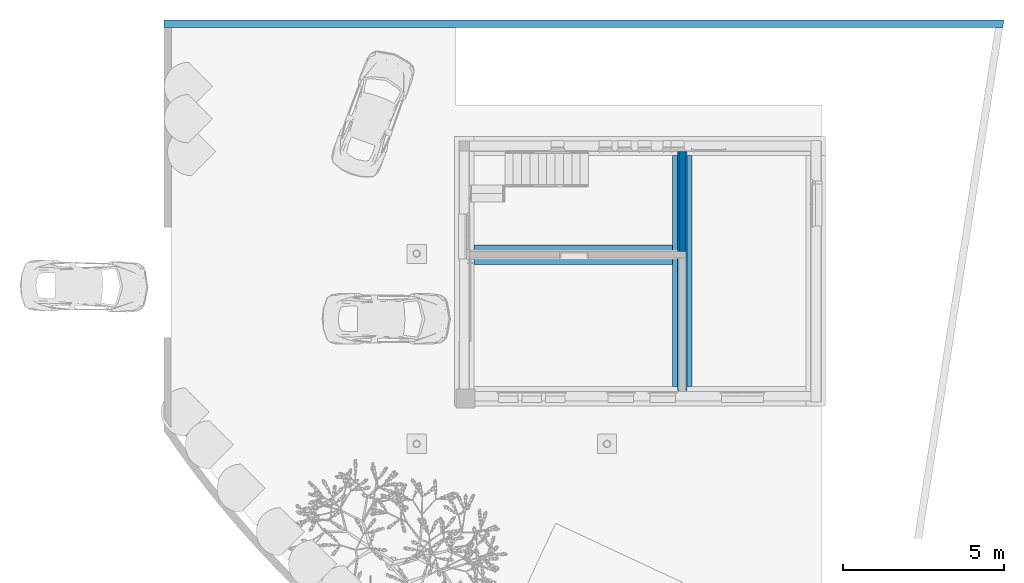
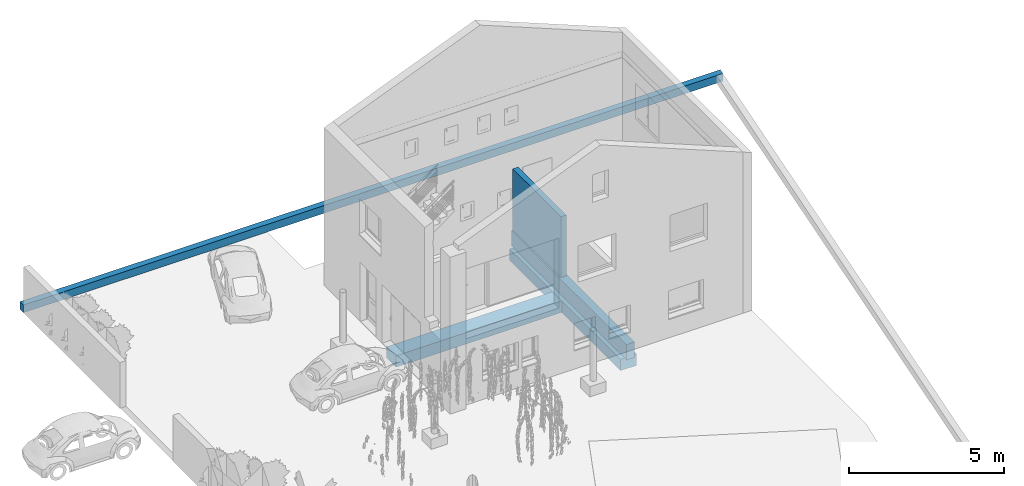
# One storey, part 4 of 20: 5 walls.
"""IFC2X3 building model written with IfcOpenShell, lengths in metres."""

from ifc_helpers import new_model, entity, si_unit, converted_unit, derived_unit, direction, frame, frame_2d, origin, place, context, subcontext, project, spatial, polyline, rectangle, outline, extrude, material, layer, layer_set, layer_usage, type_object, element, save


model = new_model("IFC2X3")

# Units and contexts
model_context = context("Model", 3, precision=1e-05, world=origin(), true_north=direction((6.12303176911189e-17, 1.0)))
body_context = subcontext(model_context, "Body", "Model", "MODEL_VIEW")
ifc_project = project(units=[si_unit("LENGTHUNIT", "METRE"), si_unit("AREAUNIT", "SQUARE_METRE"), si_unit("VOLUMEUNIT", "CUBIC_METRE"), converted_unit("PLANEANGLEUNIT", "DEGREE", entity("IfcRatioMeasure", 0.0174532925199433), si_unit("PLANEANGLEUNIT", "RADIAN"), dimensions=[0, 0, 0, 0, 0, 0, 0]), si_unit("MASSUNIT", "GRAM", prefix="KILO"), derived_unit("MASSDENSITYUNIT", [(si_unit("MASSUNIT", "GRAM", prefix="KILO"), 1), (si_unit("LENGTHUNIT", "METRE"), -3)]), derived_unit("MOMENTOFINERTIAUNIT", [(si_unit("LENGTHUNIT", "METRE"), 4)]), si_unit("TIMEUNIT", "SECOND"), si_unit("FREQUENCYUNIT", "HERTZ"), si_unit("THERMODYNAMICTEMPERATUREUNIT", "DEGREE_CELSIUS"), derived_unit("THERMALTRANSMITTANCEUNIT", [(si_unit("MASSUNIT", "GRAM", prefix="KILO"), 1), (si_unit("THERMODYNAMICTEMPERATUREUNIT", "KELVIN"), -1), (si_unit("TIMEUNIT", "SECOND"), -3)]), derived_unit("VOLUMETRICFLOWRATEUNIT", [(si_unit("LENGTHUNIT", "METRE"), 3), (si_unit("TIMEUNIT", "SECOND"), -1)]), si_unit("ELECTRICCURRENTUNIT", "AMPERE"), si_unit("ELECTRICVOLTAGEUNIT", "VOLT"), si_unit("POWERUNIT", "WATT"), si_unit("FORCEUNIT", "NEWTON", prefix="KILO"), si_unit("ILLUMINANCEUNIT", "LUX"), si_unit("LUMINOUSFLUXUNIT", "LUMEN"), si_unit("LUMINOUSINTENSITYUNIT", "CANDELA"), derived_unit("USERDEFINED", [(si_unit("MASSUNIT", "GRAM", prefix="KILO"), -1), (si_unit("LENGTHUNIT", "METRE"), -2), (si_unit("TIMEUNIT", "SECOND"), 3), (si_unit("LUMINOUSFLUXUNIT", "LUMEN"), 1)]), derived_unit("LINEARVELOCITYUNIT", [(si_unit("LENGTHUNIT", "METRE"), 1), (si_unit("TIMEUNIT", "SECOND"), -1)]), si_unit("PRESSUREUNIT", "PASCAL"), derived_unit("USERDEFINED", [(si_unit("LENGTHUNIT", "METRE"), -2), (si_unit("MASSUNIT", "GRAM", prefix="KILO"), 1), (si_unit("TIMEUNIT", "SECOND"), -2)]), derived_unit("LINEARFORCEUNIT", [(si_unit("MASSUNIT", "GRAM", prefix="KILO"), 1), (si_unit("LENGTHUNIT", "METRE"), 1), (si_unit("TIMEUNIT", "SECOND"), -2), (si_unit("LENGTHUNIT", "METRE"), -1)]), derived_unit("PLANARFORCEUNIT", [(si_unit("MASSUNIT", "GRAM", prefix="KILO"), 1), (si_unit("LENGTHUNIT", "METRE"), 1), (si_unit("TIMEUNIT", "SECOND"), -2), (si_unit("LENGTHUNIT", "METRE"), -2)])], contexts=[model_context])

# Site, building, storey
site_placement = place(None, origin())
site = spatial("IfcSite", under=ifc_project, at=site_placement, Name="Surface", CompositionType="ELEMENT")
building_placement = place(site_placement, origin())
building = spatial("IfcBuilding", under=site, at=building_placement, CompositionType="ELEMENT")
storey_placement = place(building_placement, origin())
storey = spatial("IfcBuildingStorey", under=building, at=storey_placement, Name="Niveau rdc", CompositionType="ELEMENT", Elevation=-1.94916083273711e-14)

# Walls
ifc_material_1 = material(Name="Maçonnerie - Isolant")
ifc_layer_1 = layer(ifc_material_1, 0.015)
ifc_material_2 = material(Name="Blocs béton manufacturés")
ifc_layer_2 = layer(ifc_material_2, 0.2)
ifc_layer_3 = layer(ifc_material_1, 0.015)
ifc_layer_set_1 = layer_set([ifc_layer_1, ifc_layer_2, ifc_layer_3], Name="Mur de base:Ext. Parpaing 20")
ifc_layer_usage_1 = layer_usage(ifc_layer_set_1, "AXIS2", "NEGATIVE", 0.115)
wall_type_1 = type_object("IfcWallType", Name="Mur de base:Ext. Parpaing 20", PredefinedType="STANDARD", material=ifc_layer_set_1)
wall_1_placement = place(storey_placement, frame((18.4468520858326, 10.9692581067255, 0.0), z_axis=(0.0, 0.0, 1.0), x_axis=(-1.0, 0.0, 0.0)))
element("IfcWallStandardCase", 1, at=wall_1_placement, inside=storey, type_object=wall_type_1, material=ifc_layer_usage_1, Name="Mur de base:Ext. Parpaing 20", ObjectType="Mur de base:Ext. Parpaing 20", context=body_context, shape_type="SweptSolid", body=[
    extrude(outline(polyline([(26.0374560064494, -0.114999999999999), (26.0374560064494, 0.115000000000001), (25.8074560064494, 0.115000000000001), (0.269295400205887, 0.114999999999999), (0.0364284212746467, 0.115), (0.0, -0.115), (26.0374560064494, -0.114999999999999)])), origin(), (0.0, 0.0, 1.0), 0.3),
])
ifc_material_3 = material(Name="Maçonnerie - Voile BA")
ifc_layer_4 = layer(ifc_material_3, 0.3)
ifc_layer_set_2 = layer_set([ifc_layer_4], Name="Mur de base:Ext. Voile 30")
ifc_layer_usage_2 = layer_usage(ifc_layer_set_2, "AXIS2", "NEGATIVE", 0.15)
wall_type_2 = type_object("IfcWallType", Name="Mur de base:Ext. Voile 30", PredefinedType="STANDARD", material=ifc_layer_set_2)
wall_2_placement = place(storey_placement, frame((8.47696916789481, 7.00425810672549, -0.6), z_axis=(0.0, 0.0, 1.0), x_axis=(0.0, -1.0, 0.0)))
element("IfcWallStandardCase", 2, at=wall_2_placement, inside=storey, type_object=wall_type_2, material=ifc_layer_usage_2, Name="Mur de base:Ext. Voile 30", ObjectType="Mur de base:Ext. Voile 30", context=body_context, shape_type="SweptSolid", body=[
    extrude(rectangle(XDim=7.40999999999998, YDim=0.299999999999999, at=frame_2d((3.70499999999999, 0.0), x_axis=(-1.0, 0.0))), origin(), (0.0, 0.0, 1.0), 0.6),
])
ifc_layer_5 = layer(ifc_material_3, 0.6)
ifc_layer_set_3 = layer_set([ifc_layer_5], Name="Mur de base:fondations 60*45")
ifc_layer_usage_3 = layer_usage(ifc_layer_set_3, "AXIS2", "NEGATIVE", 0.3)
wall_type_3 = type_object("IfcWallType", Name="Mur de base:fondations 60*45", PredefinedType="STANDARD", material=ifc_layer_set_3)
wall_3_placement = place(storey_placement, frame((2.0143960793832, 3.80425810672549, -1.05)))
element("IfcWallStandardCase", 3, at=wall_3_placement, inside=storey, type_object=wall_type_3, material=ifc_layer_usage_3, Name="Mur de base:fondations 60*45", ObjectType="Mur de base:fondations 60*45", context=body_context, shape_type="SweptSolid", body=[
    extrude(rectangle(XDim=6.1625730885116, YDim=0.6, at=frame_2d((3.0812865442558, 1.38777878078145e-16), x_axis=(-1.0, 0.0))), origin(), (0.0, 0.0, 1.0), 0.45),
])
ifc_layer_usage_4 = layer_usage(ifc_layer_set_3, "AXIS2", "NEGATIVE", 0.3)
wall_4_placement = place(storey_placement, frame((8.47696916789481, 6.8792581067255, -1.05), z_axis=(0.0, 0.0, 1.0), x_axis=(0.0, -1.0, 0.0)))
element("IfcWallStandardCase", 4, at=wall_4_placement, inside=storey, type_object=wall_type_3, material=ifc_layer_usage_4, Name="Mur de base:fondations 60*45", ObjectType="Mur de base:fondations 60*45", context=body_context, shape_type="SweptSolid", body=[
    extrude(rectangle(XDim=7.16, YDim=0.6, at=frame_2d((3.58, -2.22044604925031e-16), x_axis=(-1.0, 0.0))), origin(), (0.0, 0.0, 1.0), 0.45),
])
ifc_material_4 = material(Name="Brique, commune")
ifc_layer_6 = layer(ifc_material_4, 0.2)
ifc_layer_set_4 = layer_set([ifc_layer_6], Name="Mur de base:Ext. Brique 22")
ifc_layer_usage_5 = layer_usage(ifc_layer_set_4, "AXIS2", "NEGATIVE", 0.1)
wall_type_4 = type_object("IfcWallType", Name="Mur de base:Ext. Brique 22", PredefinedType="STANDARD", material=ifc_layer_set_4)
wall_5_placement = place(storey_placement, frame((8.47696916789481, 7.00925810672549, 0.0), z_axis=(0.0, 0.0, 1.0), x_axis=(0.0, -1.0, 0.0)))
element("IfcWallStandardCase", 5, at=wall_5_placement, inside=storey, type_object=wall_type_4, material=ifc_layer_usage_5, Name="Mur de base:Ext. Brique 22", ObjectType="Mur de base:Ext. Brique 22", context=body_context, shape_type="SweptSolid", body=[
    extrude(rectangle(XDim=3.10500000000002, YDim=0.2, at=frame_2d((1.55250000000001, 6.93889390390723e-18), x_axis=(-1.0, 0.0))), origin(), (0.0, 0.0, 1.0), 2.4),
])

save(model, "model.ifc")
